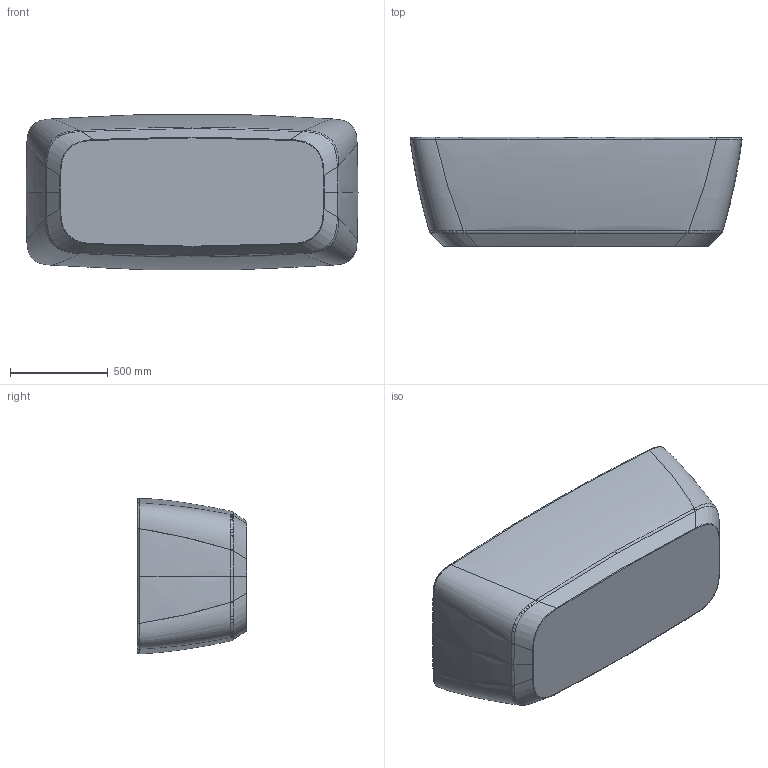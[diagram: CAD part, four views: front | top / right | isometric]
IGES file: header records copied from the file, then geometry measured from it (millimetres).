
Start section:  PTC IGES file: pjy1724hpwemw.igs
Global section: file name: pjy1724hpwemw.igs; native system: Creo Parametric by PTC Inc.; preprocessor: 2018260; author: Uporabnik; organization: Unknown; date: 20190204.102237; units: millimetre
Bounding box: 1700 x 559.99 x 795.9 mm (x, y, z)
Surface area: 5728556.5 mm2 (no closed solid volume)
Topology: 0 solids, 0 shells, 320 faces, 1730 edges, 1728 vertices
Faces by surface type: bspline 268, revolution 47, extrusion 5
